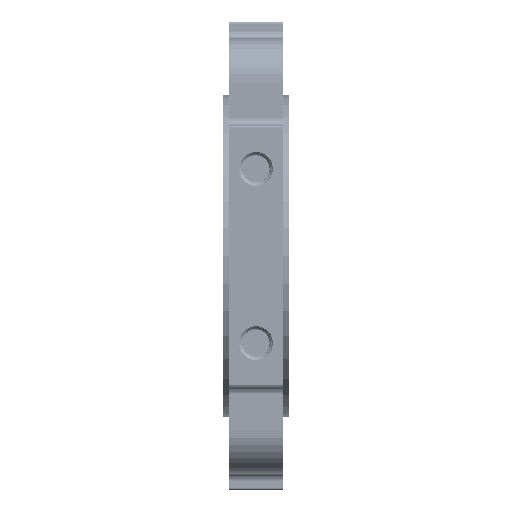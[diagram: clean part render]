
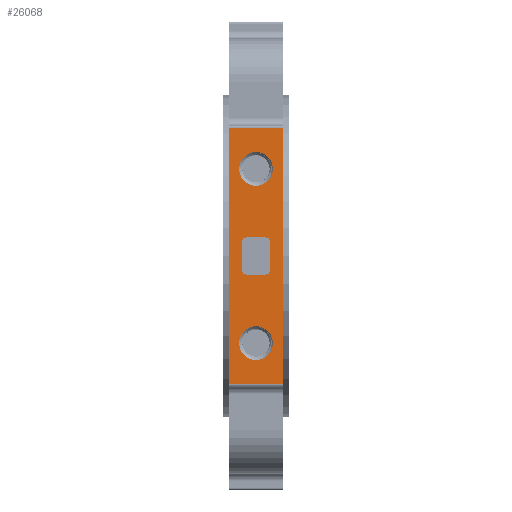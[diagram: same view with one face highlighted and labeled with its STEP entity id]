
A CAD part, front view. The second image highlights one B-rep face of the part: STEP entity #26068.
In plain terms, the highlighted planar face has unit normal (0, -1, 0) as drawn and (-1, 0, 0) by its records, which use the part's own axes.
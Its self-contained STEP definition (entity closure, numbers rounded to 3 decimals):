
#24681=CARTESIAN_POINT('',(-21.5,11.8,2.5));
#24682=VERTEX_POINT('',#24681);
#24691=CARTESIAN_POINT('',(-21.5,11.8,-2.5));
#24692=VERTEX_POINT('',#24691);
#24700=CARTESIAN_POINT('',(-21.5,11.8,2.5));
#24701=DIRECTION('',(0.,0.,-1.));
#24702=VECTOR('',#24701,5.);
#24703=LINE('',#24700,#24702);
#24704=EDGE_CURVE('',#24682,#24692,#24703,.T.);
#24714=CARTESIAN_POINT('',(-21.5,-11.8,-2.5));
#24715=VERTEX_POINT('',#24714);
#24724=CARTESIAN_POINT('',(-21.5,-11.8,2.5));
#24725=VERTEX_POINT('',#24724);
#24733=CARTESIAN_POINT('',(-21.5,-11.8,-2.5));
#24734=DIRECTION('',(0.,0.,1.));
#24735=VECTOR('',#24734,5.);
#24736=LINE('',#24733,#24735);
#24737=EDGE_CURVE('',#24715,#24725,#24736,.T.);
#24991=CARTESIAN_POINT('',(-21.5,1.7,0.95));
#24992=VERTEX_POINT('',#24991);
#24993=CARTESIAN_POINT('',(-21.5,1.7,-0.95));
#24994=VERTEX_POINT('',#24993);
#24995=CARTESIAN_POINT('',(-21.5,1.7,0.95));
#24996=DIRECTION('',(0.,0.,-1.));
#24997=VECTOR('',#24996,1.9);
#24998=LINE('',#24995,#24997);
#24999=EDGE_CURVE('',#24992,#24994,#24998,.T.);
#25031=CARTESIAN_POINT('',(-21.5,1.4,1.25));
#25032=VERTEX_POINT('',#25031);
#25033=CARTESIAN_POINT('',(-21.5,1.4,0.95));
#25034=DIRECTION('',(0.,0.,1.));
#25035=DIRECTION('',(-1.,0.,-0.));
#25036=AXIS2_PLACEMENT_3D('',#25033,#25035,#25034);
#25037=CIRCLE('',#25036,0.3);
#25038=EDGE_CURVE('',#25032,#24992,#25037,.T.);
#25064=CARTESIAN_POINT('',(-21.5,-1.4,1.25));
#25065=VERTEX_POINT('',#25064);
#25066=CARTESIAN_POINT('',(-21.5,-1.4,1.25));
#25067=DIRECTION('',(0.,1.,0.));
#25068=VECTOR('',#25067,2.8);
#25069=LINE('',#25066,#25068);
#25070=EDGE_CURVE('',#25065,#25032,#25069,.T.);
#25103=CARTESIAN_POINT('',(-21.5,-1.7,0.95));
#25104=VERTEX_POINT('',#25103);
#25105=CARTESIAN_POINT('',(-21.5,-1.4,0.95));
#25106=DIRECTION('',(0.,-1.,0.));
#25107=DIRECTION('',(-1.,0.,0.));
#25108=AXIS2_PLACEMENT_3D('',#25105,#25107,#25106);
#25109=CIRCLE('',#25108,0.3);
#25110=EDGE_CURVE('',#25104,#25065,#25109,.T.);
#25136=CARTESIAN_POINT('',(-21.5,-1.7,-0.95));
#25137=VERTEX_POINT('',#25136);
#25138=CARTESIAN_POINT('',(-21.5,-1.7,-0.95));
#25139=DIRECTION('',(0.,0.,1.));
#25140=VECTOR('',#25139,1.9);
#25141=LINE('',#25138,#25140);
#25142=EDGE_CURVE('',#25137,#25104,#25141,.T.);
#25167=CARTESIAN_POINT('',(-21.5,-1.4,-1.25));
#25168=VERTEX_POINT('',#25167);
#25169=CARTESIAN_POINT('',(-21.5,-1.4,-0.95));
#25170=DIRECTION('',(0.,0.,-1.));
#25171=DIRECTION('',(-1.,0.,0.));
#25172=AXIS2_PLACEMENT_3D('',#25169,#25171,#25170);
#25173=CIRCLE('',#25172,0.3);
#25174=EDGE_CURVE('',#25168,#25137,#25173,.T.);
#25200=CARTESIAN_POINT('',(-21.5,1.4,-1.25));
#25201=VERTEX_POINT('',#25200);
#25202=CARTESIAN_POINT('',(-21.5,1.4,-1.25));
#25203=DIRECTION('',(0.,-1.,0.));
#25204=VECTOR('',#25203,2.8);
#25205=LINE('',#25202,#25204);
#25206=EDGE_CURVE('',#25201,#25168,#25205,.T.);
#25239=CARTESIAN_POINT('',(-21.5,1.4,-0.95));
#25240=DIRECTION('',(0.,1.,0.));
#25241=DIRECTION('',(-1.,0.,0.));
#25242=AXIS2_PLACEMENT_3D('',#25239,#25241,#25240);
#25243=CIRCLE('',#25242,0.3);
#25244=EDGE_CURVE('',#24994,#25201,#25243,.T.);
#26015=CARTESIAN_POINT('',(-21.5,0.,9.5));
#26016=DIRECTION('',(0.,-1.,0.));
#26017=DIRECTION('',(-1.,0.,0.));
#26018=AXIS2_PLACEMENT_3D('',#26015,#26017,#26016);
#26019=PLANE('',#26018);
#26020=CARTESIAN_POINT('',(-21.5,11.8,-2.5));
#26021=DIRECTION('',(0.,-1.,0.));
#26022=VECTOR('',#26021,23.6);
#26023=LINE('',#26020,#26022);
#26024=EDGE_CURVE('',#24692,#24715,#26023,.T.);
#26025=ORIENTED_EDGE('E133',*,*,#26024,.T.);
#26026=ORIENTED_EDGE('E133',*,*,#24737,.T.);
#26027=CARTESIAN_POINT('',(-21.5,-11.8,2.5));
#26028=DIRECTION('',(0.,1.,0.));
#26029=VECTOR('',#26028,23.6);
#26030=LINE('',#26027,#26029);
#26031=EDGE_CURVE('',#24725,#24682,#26030,.T.);
#26032=ORIENTED_EDGE('E135',*,*,#26031,.T.);
#26033=ORIENTED_EDGE('E135',*,*,#24704,.T.);
#26034=EDGE_LOOP('',(#26025,#26026,#26032,#26033));
#26035=FACE_OUTER_BOUND('',#26034,.T.);
#26036=CARTESIAN_POINT('',(-21.5,-6.45,0.));
#26037=VERTEX_POINT('',#26036);
#26038=CARTESIAN_POINT('',(-21.5,-8.,0.));
#26039=DIRECTION('',(0.,1.,0.));
#26040=DIRECTION('',(-1.,0.,0.));
#26041=AXIS2_PLACEMENT_3D('',#26038,#26040,#26039);
#26042=CIRCLE('',#26041,1.55);
#26043=EDGE_CURVE('',#26037,#26037,#26042,.T.);
#26044=ORIENTED_EDGE('E307',*,*,#26043,.F.);
#26045=EDGE_LOOP('',(#26044));
#26046=FACE_BOUND('',#26045,.T.);
#26047=ORIENTED_EDGE('',*,*,#24999,.F.);
#26048=ORIENTED_EDGE('',*,*,#25038,.F.);
#26049=ORIENTED_EDGE('',*,*,#25070,.F.);
#26050=ORIENTED_EDGE('',*,*,#25110,.F.);
#26051=ORIENTED_EDGE('',*,*,#25142,.F.);
#26052=ORIENTED_EDGE('',*,*,#25174,.F.);
#26053=ORIENTED_EDGE('',*,*,#25206,.F.);
#26054=ORIENTED_EDGE('',*,*,#25244,.F.);
#26055=EDGE_LOOP('',(#26047,#26048,#26049,#26050,#26051,#26052,#26053,#26054));
#26056=FACE_BOUND('',#26055,.T.);
#26057=CARTESIAN_POINT('',(-21.5,9.55,0.));
#26058=VERTEX_POINT('',#26057);
#26059=CARTESIAN_POINT('',(-21.5,8.,0.));
#26060=DIRECTION('',(0.,1.,0.));
#26061=DIRECTION('',(-1.,0.,0.));
#26062=AXIS2_PLACEMENT_3D('',#26059,#26061,#26060);
#26063=CIRCLE('',#26062,1.55);
#26064=EDGE_CURVE('',#26058,#26058,#26063,.T.);
#26065=ORIENTED_EDGE('E362',*,*,#26064,.F.);
#26066=EDGE_LOOP('',(#26065));
#26067=FACE_BOUND('',#26066,.T.);
#26068=ADVANCED_FACE('F52',(#26035,#26046,#26056,#26067),#26019,.T.);
